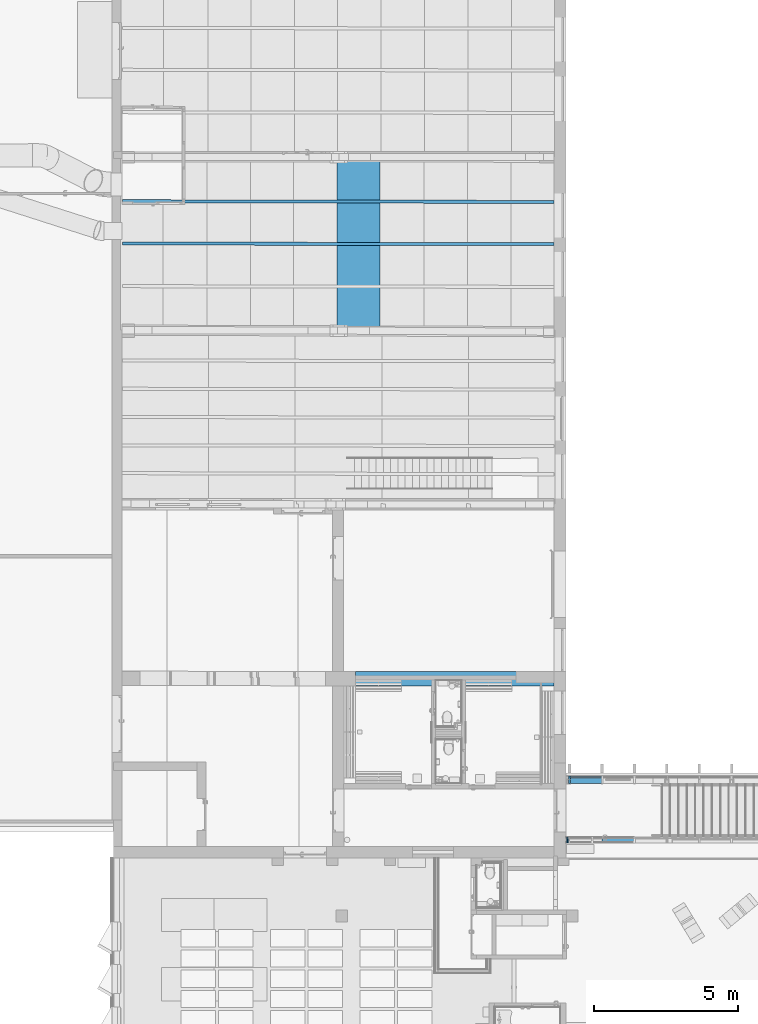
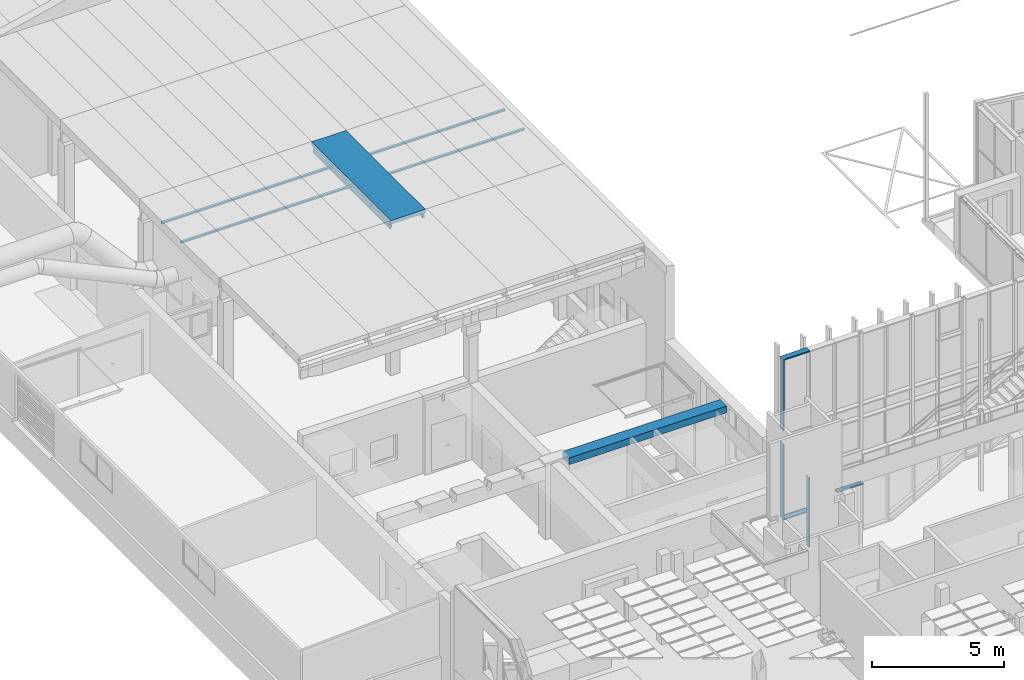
# One storey, part 34 of 301: 6 members, 4 beams, 2 elements without a shape of their own.
"""IFC2X3 building model written with IfcOpenShell, lengths in millimetres."""

from ifc_helpers import new_model, entity, si_unit, converted_unit, derived_unit, money_unit, direction, frame, origin_with_axes, place, context, subcontext, project, spatial, faceted_brep, material, type_object, element, aggregate, save


model = new_model("IFC2X3")

# Units and contexts
model_context = context("Model", 3, precision=0.01, world=origin_with_axes(), true_north=direction((0.0, 1.0)))
body_context = subcontext(model_context, "Body", "Model", "MODEL_VIEW")
ifc_project = project(units=[si_unit("LENGTHUNIT", "METRE", prefix="MILLI"), si_unit("AREAUNIT", "SQUARE_METRE"), si_unit("VOLUMEUNIT", "CUBIC_METRE"), converted_unit("PLANEANGLEUNIT", "DEGREE", entity("IfcPlaneAngleMeasure", 0.0174532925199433), si_unit("PLANEANGLEUNIT", "RADIAN"), dimensions=[0, 0, 0, 0, 0, 0, 0]), money_unit("EUR"), converted_unit("TIMEUNIT", "Year", entity("IfcTimeMeasure", 31557600.0), si_unit("TIMEUNIT", "SECOND"), dimensions=[0, 0, 1, 0, 0, 0, 0]), si_unit("MASSUNIT", "GRAM", prefix="KILO"), si_unit("THERMODYNAMICTEMPERATUREUNIT", "DEGREE_CELSIUS"), si_unit("LUMINOUSINTENSITYUNIT", "LUMEN"), si_unit("ENERGYUNIT", "JOULE", prefix="MEGA"), derived_unit("THERMALCONDUCTANCEUNIT", [(si_unit("POWERUNIT", "WATT"), 1), (si_unit("LENGTHUNIT", "METRE"), -1), (si_unit("THERMODYNAMICTEMPERATUREUNIT", "KELVIN"), -1)]), derived_unit("SPECIFICHEATCAPACITYUNIT", [(si_unit("ENERGYUNIT", "JOULE"), 1), (si_unit("MASSUNIT", "GRAM", prefix="KILO"), -1), (si_unit("THERMODYNAMICTEMPERATUREUNIT", "KELVIN"), -1)]), derived_unit("MASSDENSITYUNIT", [(si_unit("MASSUNIT", "GRAM", prefix="KILO"), 1), (si_unit("VOLUMEUNIT", "CUBIC_METRE"), -1)])], contexts=[model_context])

# Site, building, storey
site_placement = place(None, frame((0.0, 0.0, 8650.0), z_axis=(0.0, 0.0, 1.0), x_axis=(1.0, 0.0, 0.0)))
site = spatial("IfcSite", under=ifc_project, at=site_placement, Name="43301:001:0844", CompositionType="ELEMENT")
building_placement = place(site_placement, origin_with_axes())
building = spatial("IfcBuilding", under=site, at=building_placement, Name="Kuressaare Ametikooli tuulikute mehaanikute õppekorpus", CompositionType="ELEMENT")
storey_placement = place(building_placement, origin_with_axes())
storey = spatial("IfcBuildingStorey", under=building, at=storey_placement, Name="1.korrus", CompositionType="ELEMENT", Elevation=0.0)

# Curtain wall, members
curtain_wall_type = type_object("IfcCurtainWallType", Name="Curtain Wall Type", PredefinedType="NOTDEFINED")
curtain_wall_1_placement = place(storey_placement, frame((116704.6026822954, 28579.57374875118, 35.00000000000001), z_axis=(0.0, 0.0, 1.0), x_axis=(1.0, 0.0, 0.0)))
curtain_wall_1 = element("IfcCurtainWall", 1, at=curtain_wall_1_placement, inside=storey, type_object=curtain_wall_type, Name="KF-1.1")
ifc_material_1 = material(Name="Aluminium")
member_type_1 = type_object("IfcMemberType", Name="Boundary Frame 50 x 260", PredefinedType="NOTDEFINED")
member_1_placement = place(curtain_wall_1_placement, frame((-12937.5, 0.0, 0.0), z_axis=(1.0, 0.0, 0.0), x_axis=(0.0, 0.0, 1.0)))
member_1 = element("IfcMember", 2, at=member_1_placement, type_object=member_type_1, material=ifc_material_1, context=body_context, shape_type="Brep", body=[
    faceted_brep([(5.000000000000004, 19.99999999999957, 1125.0), (25.00000000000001, 19.99999999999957, 1125.0), (25.00000000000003, 219.9999999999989, 1125.0), (-24.99999999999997, 219.9999999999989, 1125.0), (-25.0, -39.99999999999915, 1125.0), (24.99999999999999, -39.99999999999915, 1125.0), (24.99999999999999, -19.99999999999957, 1125.0), (4.999999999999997, -19.99999999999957, 1125.0), (5.000000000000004, 19.99999999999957, 4.999999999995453), (25.00000000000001, 19.99999999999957, 25.00000000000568), (25.00000000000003, 219.9999999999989, 25.00000000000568), (-24.99999999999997, 219.9999999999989, -25.00000000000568), (-25.0, -39.99999999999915, -25.00000000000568), (24.99999999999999, -39.99999999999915, 25.00000000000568), (24.99999999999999, -19.99999999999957, 25.00000000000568), (4.999999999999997, -19.99999999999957, 4.999999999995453)], [[[0, 1, 2, 3, 4, 5, 6, 7]], [[0, 8, 9, 1]], [[9, 10, 2, 1]], [[2, 10, 11, 3]], [[3, 11, 12, 4]], [[4, 12, 13, 5]], [[6, 5, 13, 14]], [[14, 15, 7, 6]], [[7, 15, 8, 0]], [[8, 15, 14, 13, 12, 11, 10, 9]]]),
])
member_2_placement = place(curtain_wall_1_placement, frame((-12937.5, 0.0, 0.0), z_axis=(0.0, 0.0, 1.0), x_axis=(-1.0, 0.0, 0.0)))
member_2 = element("IfcMember", 3, at=member_2_placement, type_object=member_type_1, material=ifc_material_1, context=body_context, shape_type="Brep", body=[
    faceted_brep([(-4.999999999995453, 19.99999999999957, 3465.000008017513), (-4.999999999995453, -19.99999999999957, 3465.000008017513), (-25.00000000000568, -19.99999999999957, 3445.000008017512), (-25.00000000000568, -39.99999999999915, 3445.000008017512), (0.0, -39.99999999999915, 3470.000008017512), (0.0, 219.9999999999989, 3470.000008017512), (-25.00000000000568, 219.9999999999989, 3445.000008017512), (-25.00000000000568, 19.99999999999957, 3445.000008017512), (-4.999999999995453, 19.99999999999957, 4.999999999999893), (-4.999999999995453, -19.99999999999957, 4.999999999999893), (-25.00000000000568, -19.99999999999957, 25.00000000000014), (-25.00000000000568, -39.99999999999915, 25.00000000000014), (25.00000000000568, -39.99999999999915, -24.99999999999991), (25.00000000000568, -39.99999999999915, 3470.000008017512), (25.00000000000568, 219.9999999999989, 3470.000008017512), (25.00000000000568, 219.9999999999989, -24.99999999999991), (-25.00000000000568, 219.9999999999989, 25.00000000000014), (-25.00000000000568, 19.99999999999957, 25.00000000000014)], [[[0, 1, 2, 3, 4, 5, 6, 7]], [[1, 0, 8, 9]], [[10, 2, 1, 9]], [[2, 10, 11, 3]], [[11, 12, 13, 4, 3]], [[4, 13, 14, 5]], [[14, 15, 16, 6, 5]], [[17, 7, 6, 16]], [[0, 7, 17, 8]], [[8, 17, 16, 15, 12, 11, 10, 9]], [[14, 13, 12, 15]]]),
])
member_3_placement = place(curtain_wall_1_placement, frame((-12937.5, 0.0, 4090.0), z_axis=(0.0, 0.0, 1.0), x_axis=(-1.0, 0.0, 0.0)))
member_3 = element("IfcMember", 4, at=member_3_placement, type_object=member_type_1, material=ifc_material_1, context=body_context, shape_type="Brep", body=[
    faceted_brep([(-4.999999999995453, 19.99999999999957, 3264.99994565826), (-4.999999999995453, -19.99999999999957, 3264.99994565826), (-25.00000000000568, -19.99999999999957, 3244.999945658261), (-25.00000000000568, -39.99999999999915, 3244.999945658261), (25.00000000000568, -39.99999999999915, 3294.99994565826), (25.00000000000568, 219.9999999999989, 3294.99994565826), (-25.00000000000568, 219.9999999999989, 3244.999945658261), (-25.00000000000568, 19.99999999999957, 3244.999945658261), (-4.999999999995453, 19.99999999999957, 4.999999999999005), (-4.999999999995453, -19.99999999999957, 4.999999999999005), (-25.00000000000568, -19.99999999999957, 25.00000000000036), (-25.00000000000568, -39.99999999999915, 25.00000000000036), (25.00000000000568, -39.99999999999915, 0.0), (0.0, -39.99999999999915, 0.0), (25.00000000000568, 219.9999999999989, 0.0), (0.0, 219.9999999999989, 0.0), (-25.00000000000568, 219.9999999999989, 25.00000000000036), (-25.00000000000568, 19.99999999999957, 25.00000000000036)], [[[0, 1, 2, 3, 4, 5, 6, 7]], [[1, 0, 8, 9]], [[10, 2, 1, 9]], [[2, 10, 11, 3]], [[12, 4, 3, 11, 13]], [[5, 4, 12, 14]], [[6, 5, 14, 15, 16]], [[17, 7, 6, 16]], [[0, 7, 17, 8]], [[8, 17, 16, 15, 13, 11, 10, 9]], [[15, 14, 12, 13]]]),
])
member_4_placement = place(curtain_wall_1_placement, frame((-11812.5, 0.0, 7359.99994565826), z_axis=(-1.0, 0.0, 0.0), x_axis=(0.0, 0.0, -1.0)))
member_4 = element("IfcMember", 5, at=member_4_placement, type_object=member_type_1, material=ifc_material_1, context=body_context, shape_type="Brep", body=[
    faceted_brep([(4.999999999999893, 19.99999999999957, 1120.000000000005), (25.00000000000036, 19.99999999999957, 1099.999999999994), (25.00000000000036, 219.9999999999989, 1099.999999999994), (-25.00000000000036, 219.9999999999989, 1150.000000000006), (-25.00000000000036, -39.99999999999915, 1150.000000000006), (25.00000000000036, -39.99999999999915, 1099.999999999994), (25.00000000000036, -19.99999999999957, 1099.999999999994), (4.999999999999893, -19.99999999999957, 1120.000000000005), (4.999999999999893, 19.99999999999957, 0.0), (25.00000000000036, 19.99999999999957, 0.0), (25.00000000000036, 219.9999999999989, 0.0), (-25.00000000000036, 219.9999999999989, 0.0), (-25.00000000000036, -39.99999999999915, 0.0), (25.00000000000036, -39.99999999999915, 0.0), (25.00000000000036, -19.99999999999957, 0.0), (4.999999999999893, -19.99999999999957, 0.0)], [[[0, 1, 2, 3, 4, 5, 6, 7]], [[0, 8, 9, 1]], [[9, 10, 2, 1]], [[10, 11, 3, 2]], [[11, 12, 4, 3]], [[12, 13, 5, 4]], [[6, 5, 13, 14]], [[14, 15, 7, 6]], [[7, 15, 8, 0]], [[8, 15, 14, 13, 12, 11, 10, 9]]]),
])
aggregate(curtain_wall_1, [member_1, member_2, member_3, member_4])

curtain_wall_2_placement = place(storey_placement, frame((105155.4360221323, 26479.57374875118, 34.99996632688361), z_axis=(0.0, 0.0, 1.0), x_axis=(1.0, 0.0, 0.0)))
curtain_wall_2 = element("IfcCurtainWall", 6, at=curtain_wall_2_placement, inside=storey, type_object=curtain_wall_type, Name="SKF-1.1,EI60")
member_type_2 = type_object("IfcMemberType", Name="Boundary Frame 50 x 200", PredefinedType="NOTDEFINED")
member_5_placement = place(curtain_wall_2_placement, frame((-1463.333473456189, 0.0, 3209.99994650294), z_axis=(3.764702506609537e-08, 0.0, -0.9999999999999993), x_axis=(0.9999999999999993, 0.0, 3.764702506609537e-08)))
member_5 = element("IfcMember", 7, at=member_5_placement, type_object=member_type_2, material=ifc_material_1, context=body_context, shape_type="Brep", body=[
    faceted_brep([(4.999879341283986, 19.99999999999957, 3204.999946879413), (24.99988009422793, 19.99999999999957, 3184.999948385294), (24.99988009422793, 170.0000000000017, 3184.999948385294), (-25.00012178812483, 170.0000000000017, 3234.999944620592), (-25.00012178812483, -30.00000000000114, 3234.999944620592), (24.99988009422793, -30.00000000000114, 3184.999948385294), (24.99988009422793, -19.99999999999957, 3184.999948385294), (4.999879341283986, -19.99999999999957, 3204.999946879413), (4.999999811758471, 19.99999999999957, 5.00000037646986), (24.99999905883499, 19.99999999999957, 25.00000188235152), (24.99999905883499, 170.0000000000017, 25.00000188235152), (-24.99999905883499, 170.0000000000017, -25.00000188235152), (-24.99999905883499, -30.00000000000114, -25.00000188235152), (24.99999905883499, -30.00000000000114, 25.00000188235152), (24.99999905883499, -19.99999999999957, 25.00000188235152), (4.999999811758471, -19.99999999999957, 5.00000037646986)], [[[0, 1, 2, 3, 4, 5, 6, 7]], [[0, 8, 9, 1]], [[9, 10, 2, 1]], [[2, 10, 11, 3]], [[3, 11, 12, 4]], [[4, 12, 13, 5]], [[6, 5, 13, 14]], [[14, 15, 7, 6]], [[7, 15, 8, 0]], [[8, 15, 14, 13, 12, 11, 10, 9]]]),
])
member_6_placement = place(curtain_wall_2_placement, frame((-263.3333398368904, 0.0, 2100.379309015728), z_axis=(1.0, 0.0, 0.0), x_axis=(0.0, 0.0, 1.0)))
member_6 = element("IfcMember", 8, at=member_6_placement, type_object=member_type_2, material=ifc_material_1, context=body_context, shape_type="Brep", body=[
    faceted_brep([(-4.999999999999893, 19.99999999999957, 1150.000000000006), (-4.999999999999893, -19.99999999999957, 1150.000000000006), (-24.99999999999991, -19.99999999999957, 1150.000000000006), (-24.99999999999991, -30.00000000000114, 1150.000000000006), (24.99999999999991, -30.00000000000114, 1150.000000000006), (24.99999999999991, -19.99999999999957, 1150.000000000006), (4.999999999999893, -19.99999999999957, 1150.000000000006), (4.999999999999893, 19.99999999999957, 1150.000000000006), (24.99999999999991, 19.99999999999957, 1150.000000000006), (24.99999999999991, 170.0000000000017, 1150.000000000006), (-24.99999999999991, 170.0000000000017, 1150.000000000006), (-24.99999999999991, 19.99999999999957, 1150.000000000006), (-4.999999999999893, 19.99999999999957, 0.0), (-4.999999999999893, -19.99999999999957, 0.0), (-24.99999999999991, -19.99999999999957, 0.0), (-24.99999999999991, -30.00000000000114, 0.0), (24.99999999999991, -30.00000000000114, 0.0), (24.99999999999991, -19.99999999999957, 0.0), (4.999999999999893, -19.99999999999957, 0.0), (4.999999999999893, 19.99999999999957, 0.0), (24.99999999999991, 19.99999999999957, 0.0), (24.99999999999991, 170.0000000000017, 0.0), (-24.99999999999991, 170.0000000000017, 0.0), (-24.99999999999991, 19.99999999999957, 0.0)], [[[0, 1, 2, 3, 4, 5, 6, 7, 8, 9, 10, 11]], [[0, 12, 13, 1]], [[1, 13, 14, 2]], [[14, 15, 3, 2]], [[3, 15, 16, 4]], [[17, 5, 4, 16]], [[5, 17, 18, 6]], [[7, 6, 18, 19]], [[8, 7, 19, 20]], [[8, 20, 21, 9]], [[9, 21, 22, 10]], [[11, 10, 22, 23]], [[11, 23, 12, 0]], [[13, 12, 23, 22, 21, 20, 19, 18, 17, 16, 15, 14]]]),
])
aggregate(curtain_wall_2, [member_5, member_6])

# Beams
ifc_material_2 = material(Name="GENEERILINE - KONSTRUKTRIOON")
beam_type_1 = type_object("IfcBeamType", Name="GENEERILINE - KONSTRUKTRIOON 500 x 310", PredefinedType="NOTDEFINED")
beam_1_placement = place(storey_placement, frame((96346.58402471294, 32254.42678267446, 3100.0), z_axis=(0.0, 0.0, 1.0), x_axis=(-0.001050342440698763, -0.9999994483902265, 0.0)))
element("IfcBeam", 9, at=beam_1_placement, inside=storey, type_object=beam_type_1, material=ifc_material_2, context=body_context, shape_type="Brep", body=[
    faceted_brep([(0.0, 6880.931977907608, 0.0), (0.0, 0.0, 0.0), (0.0, 0.0, 309.9999999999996), (0.0, 6880.931977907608, 310.0000000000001), (499.5814427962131, 0.0, 0.0), (499.5808916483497, 0.5247313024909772, 0.0), (499.9999999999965, 6880.931977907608, 0.0), (499.9999999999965, 0.0, 0.0), (499.5808916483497, 0.5247313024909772, 309.9999999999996), (499.5814427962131, 0.0, 309.9999999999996), (499.9999999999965, 0.0, 310.0000000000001), (499.9999999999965, 6880.931977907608, 310.0000000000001)], [[[0, 1, 2, 3]], [[4, 5, 1, 0, 6, 7]], [[5, 8, 2, 1]], [[2, 8, 9, 10, 11, 3]], [[11, 6, 0, 3]], [[4, 9, 8, 5]], [[10, 7, 6, 11]], [[10, 9, 4, 7]]]),
])
beam_type_2 = type_object("IfcBeamType", Name="Precast Double Tee 2 1500 x 440", PredefinedType="NOTDEFINED")
beam_2_placement = place(storey_placement, frame((96455.87775377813, 50085.19774602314, 7100.0), z_axis=(0.0, 0.0, 1.0), x_axis=(-1.0, 0.0, 0.0)))
element("IfcBeam", 10, at=beam_2_placement, inside=storey, type_object=beam_type_2, material=ifc_material_2, context=body_context, shape_type="Brep", body=[
    faceted_brep([(750.0, 0.0, 0.0), (750.0, 6000.04546014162, 0.0), (-750.0, 6000.04546014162, 0.0), (-750.0, 0.0, 0.0), (750.0, 5846.273922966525, -168.9999999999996), (750.0, 6000.04546014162, -168.9999999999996), (750.0, 0.0, -169.8234995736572), (750.0, 175.561942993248, -169.8234995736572), (750.0, 164.5993947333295, -181.3563575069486), (750.0, 132.9269167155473, -222.3718083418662), (750.0, 107.3349260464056, -267.4324680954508), (750.0, 107.3344034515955, -440.0001340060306), (750.0, 5914.501854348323, -440.0001340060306), (750.0, 5914.501329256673, -266.6089685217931), (750.0, 5888.909192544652, -221.5483087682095), (750.0, 5857.236533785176, -180.5328579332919), (750.0, 1585.555563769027, -175.3978342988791), (750.0, 1580.980944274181, -184.1936973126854), (750.0, 1560.240958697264, -271.7709778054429), (750.0, 1520.24090499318, -271.7709778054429), (750.0, 1499.499957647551, -184.1935020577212), (750.0, 1494.925317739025, -175.3977593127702), (750.0, 1486.726526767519, -169.8234995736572), (750.0, 1593.754421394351, -169.8234995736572), (750.0, 3046.821644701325, -184.1936973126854), (750.0, 3026.081659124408, -271.7709778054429), (750.0, 2986.081605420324, -271.7709778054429), (750.0, 2965.340658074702, -184.1935020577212), (750.0, 2960.766018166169, -175.3977593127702), (750.0, 2952.567227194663, -169.8234995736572), (750.0, 3059.595121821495, -169.8234995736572), (750.0, 3051.396264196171, -175.3978342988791), (750.0, 4506.17395883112, -271.7709778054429), (750.0, 4466.173905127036, -271.7709778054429), (750.0, 4445.432957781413, -184.1935020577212), (750.0, 4440.85831787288, -175.3977593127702), (750.0, 4432.659526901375, -169.8234995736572), (750.0, 4539.687421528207, -169.8234995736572), (750.0, 4531.488563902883, -175.3978342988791), (750.0, 4526.913944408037, -184.1936973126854), (-750.0, 6000.04546014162, -168.9999999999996), (-750.0, 5851.358713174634, -168.9999999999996), (-750.0, 5862.321323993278, -180.5328579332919), (-750.0, 5893.993982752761, -221.5483087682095), (-750.0, 5919.586119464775, -266.6089685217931), (-750.0, 5919.586644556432, -440.0001340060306), (-750.0, 107.7531897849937, -440.0001340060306), (-750.0, 107.7537123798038, -267.4324680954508), (-750.0, 133.3457030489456, -222.3718083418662), (-750.0, 165.0181810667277, -181.3563575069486), (-750.0, 175.9807293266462, -169.8234995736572), (-750.0, 0.0, -169.8234995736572), (-750.0, 1501.957947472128, -184.1935020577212), (-750.0, 1522.698894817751, -271.7709778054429), (-750.0, 1562.698948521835, -271.7709778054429), (-750.0, 1583.438934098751, -184.1936973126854), (-750.0, 1588.013553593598, -175.3978342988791), (-750.0, 1596.212411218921, -169.8234995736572), (-750.0, 1489.18451659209, -169.8234995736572), (-750.0, 1497.383307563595, -175.3977593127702), (-750.0, 2988.539595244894, -271.7709778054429), (-750.0, 3028.539648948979, -271.7709778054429), (-750.0, 3049.279634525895, -184.1936973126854), (-750.0, 3053.854254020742, -175.3978342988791), (-750.0, 3062.053111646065, -169.8234995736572), (-750.0, 2955.025217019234, -169.8234995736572), (-750.0, 2963.224007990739, -175.3977593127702), (-750.0, 2967.798647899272, -184.1935020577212), (-750.0, 4508.631948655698, -271.7709778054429), (-750.0, 4529.371934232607, -184.1936973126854), (-750.0, 4533.946553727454, -175.3978342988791), (-750.0, 4542.145411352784, -169.8234995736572), (-750.0, 4435.117516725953, -169.8234995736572), (-750.0, 4443.316307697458, -175.3977593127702), (-750.0, 4447.890947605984, -184.1935020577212), (-750.0, 4468.631894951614, -271.7709778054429), (-584.2531439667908, 0.0, -169.8234995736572), (586.8200850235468, 0.0, -169.8234995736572), (586.8200850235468, 175.6075013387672, -169.8234995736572), (604.4404036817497, 173.5589308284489, -171.9734684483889), (620.1516209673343, 165.7013948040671, -180.2351660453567), (621.1429266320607, 164.6353704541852, -181.3563575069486), (631.9095256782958, 155.2289563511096, -193.5336498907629), (638.1842783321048, 142.404695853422, -210.1386333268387), (640.4097012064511, 132.9575133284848, -222.3718083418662), (648.6070026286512, 107.3632340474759, -267.4324680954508), (680.0000000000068, 107.3539468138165, -440.0001340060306), (680.0000000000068, 5914.739144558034, -440.0001340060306), (648.4571940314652, 5914.845545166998, -266.6089685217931), (640.2598926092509, 5889.281196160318, -221.5483087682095), (620.4148263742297, 5857.675809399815, -180.5328579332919), (638.1842783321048, 5880.477534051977, -210.1386333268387), (631.9095256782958, 5867.67622276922, -193.5336498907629), (604.4404036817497, 5849.593793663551, -171.9734684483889), (586.8200850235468, 5847.609861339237, -169.8234995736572), (-584.2531439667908, 5851.579635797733, -169.8234995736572), (-604.310838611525, 5855.147849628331, -173.5057932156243), (-615.9100461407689, 5861.866777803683, -180.5328579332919), (620.1516209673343, 5857.393729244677, -180.2351660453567), (620.1516209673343, 1583.252504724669, -180.2351660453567), (623.651571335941, 1581.187986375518, -184.1936973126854), (610.952498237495, 1585.783415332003, -175.3978342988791), (638.1842783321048, 1575.019912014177, -210.1386333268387), (649.3962514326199, 1560.405814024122, -271.7709778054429), (631.9095256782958, 1578.96257386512, -193.5336498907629), (649.3962514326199, 1520.405760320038, -271.7709778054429), (638.1842783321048, 1505.827763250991, -210.1386333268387), (631.9095256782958, 1501.905492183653, -193.5336498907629), (623.651398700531, 1499.707000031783, -184.1935020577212), (610.9523556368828, 1495.153169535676, -175.3977593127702), (620.1516209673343, 1497.654016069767, -180.2351660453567), (586.8200850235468, 1486.993923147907, -169.8234995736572), (604.4404036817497, 1490.127289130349, -171.9734684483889), (586.8200850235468, 1594.021817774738, -169.8234995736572), (604.4404036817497, 1590.830721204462, -171.9734684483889), (649.3962514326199, 3026.246514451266, -271.7709778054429), (623.651571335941, 3047.028686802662, -184.1936973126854), (631.9095256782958, 3044.803274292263, -193.5336498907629), (638.1842783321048, 3040.860612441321, -210.1386333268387), (649.3962514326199, 2986.246460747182, -271.7709778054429), (638.1842783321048, 2971.668463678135, -210.1386333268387), (631.9095256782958, 2967.746192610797, -193.5336498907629), (623.651398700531, 2965.547700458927, -184.1935020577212), (620.1516209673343, 2963.494716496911, -180.2351660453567), (610.952355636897, 2960.99386996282, -175.3977593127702), (604.4404036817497, 2955.967989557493, -171.9734684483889), (586.8200850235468, 2952.834623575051, -169.8234995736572), (586.8200850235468, 3059.862518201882, -169.8234995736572), (610.952498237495, 3051.624115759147, -175.3978342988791), (604.4404036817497, 3056.671421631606, -171.9734684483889), (620.1516209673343, 3049.093205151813, -180.2351660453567), (649.3962514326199, 4506.338814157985, -271.7709778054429), (649.3962514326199, 4466.338760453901, -271.7709778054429), (638.1842783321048, 4451.760763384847, -210.1386333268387), (631.9095256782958, 4447.838492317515, -193.5336498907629), (623.651398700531, 4445.640000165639, -184.1935020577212), (620.1516209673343, 4443.587016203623, -180.2351660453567), (610.952355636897, 4441.086169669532, -175.3977593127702), (604.4404036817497, 4436.060289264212, -171.9734684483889), (586.8200850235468, 4432.92692328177, -169.8234995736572), (586.8200850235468, 4539.954817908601, -169.8234995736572), (604.4404036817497, 4536.763721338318, -171.9734684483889), (610.952498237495, 4531.716415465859, -175.3978342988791), (620.1516209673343, 4529.185504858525, -180.2351660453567), (623.651571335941, 4527.120986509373, -184.1936973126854), (631.9095256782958, 4524.895573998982, -193.5336498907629), (638.1842783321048, 4520.952912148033, -210.1386333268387), (-621.7526411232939, 5864.619890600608, -184.072435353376), (-634.3038197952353, 5877.074142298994, -200.1453415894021), (-640.3274701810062, 5892.139560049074, -219.6283094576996), (-640.6295561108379, 5893.623232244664, -221.5483087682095), (-647.7192416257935, 5919.239401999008, -266.6089685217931), (-674.9999969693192, 5919.332405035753, -440.0001340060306), (-674.9999969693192, 107.7322504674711, -440.0001340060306), (-647.8488081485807, 107.7251926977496, -267.4324680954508), (-640.7591226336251, 133.3152039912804, -222.3718083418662), (-640.3274701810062, 135.4336365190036, -219.6283094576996), (-634.3038197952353, 150.4768673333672, -200.1453415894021), (-621.7526411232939, 162.8849972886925, -184.072435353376), (-617.2693537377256, 164.9811238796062, -181.3563575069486), (-584.2531439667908, 175.9344543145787, -169.8234995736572), (-604.310838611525, 172.4398531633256, -173.5057932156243), (-621.847180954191, 1501.747948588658, -184.1935020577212), (-634.3038197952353, 1505.546230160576, -200.1453415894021), (-640.3274701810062, 1510.170246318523, -219.6283094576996), (-648.5314139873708, 1522.532622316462, -271.7709778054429), (-648.5314139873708, 1562.532676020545, -271.7709778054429), (-640.3274701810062, 1574.867619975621, -219.6283094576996), (-634.3038197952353, 1579.471691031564, -200.1453415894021), (-621.8473334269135, 1583.228935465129, -184.1936973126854), (-621.7526411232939, 1583.291847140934, -184.072435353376), (-607.4339316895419, 1587.779936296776, -175.3978342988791), (-604.310838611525, 1590.557675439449, -173.5057932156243), (-584.2531439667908, 1595.9408084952, -169.8234995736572), (-584.2531439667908, 1488.912913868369, -169.8234995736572), (-604.310838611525, 1494.361811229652, -173.5057932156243), (-607.4338079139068, 1497.149690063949, -175.3977593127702), (-621.7526411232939, 1501.684827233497, -184.072435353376), (-648.5314139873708, 2988.373322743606, -271.7709778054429), (-648.5314139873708, 3028.373376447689, -271.7709778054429), (-640.3274701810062, 3040.708320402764, -219.6283094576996), (-634.3038197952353, 3045.312391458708, -200.1453415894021), (-621.8473334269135, 3049.069635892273, -184.1936973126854), (-621.7526411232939, 3049.132547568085, -184.072435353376), (-607.4339316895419, 3053.62063672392, -175.3978342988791), (-604.310838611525, 3056.398375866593, -173.5057932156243), (-584.2531439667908, 3061.781508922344, -169.8234995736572), (-584.2531439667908, 2954.753614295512, -169.8234995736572), (-604.310838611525, 2960.202511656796, -173.5057932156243), (-607.4338079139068, 2962.990390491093, -175.3977593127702), (-621.7526411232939, 2967.525527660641, -184.072435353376), (-621.8471809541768, 2967.588649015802, -184.1935020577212), (-634.3038197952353, 2971.38693058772, -200.1453415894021), (-640.3274701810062, 2976.010946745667, -219.6283094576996), (-634.3038197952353, 4525.40469116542, -200.1453415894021), (-621.8473334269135, 4529.161935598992, -184.1936973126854), (-648.5314139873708, 4508.465676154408, -271.7709778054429), (-640.3274701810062, 4520.800620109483, -219.6283094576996), (-621.7526411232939, 4529.224847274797, -184.072435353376), (-607.4339316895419, 4533.712936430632, -175.3978342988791), (-604.310838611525, 4536.490675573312, -173.5057932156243), (-584.2531439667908, 4541.873808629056, -169.8234995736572), (-584.2531439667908, 4434.845914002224, -169.8234995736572), (-604.310838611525, 4440.294811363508, -173.5057932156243), (-607.4338079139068, 4443.082690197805, -175.3977593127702), (-621.7526411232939, 4447.617827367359, -184.072435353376), (-621.8471809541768, 4447.680948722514, -184.1935020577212), (-640.3274701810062, 4456.103246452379, -219.6283094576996), (-648.5314139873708, 4468.465622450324, -271.7709778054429), (-634.3038197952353, 4451.479230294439, -200.1453415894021)], [[[0, 1, 2, 3]], [[4, 5, 1, 0, 6, 7, 8, 9, 10, 11, 12, 13, 14, 15], [16, 17, 18, 19, 20, 21, 22, 23], [24, 25, 26, 27, 28, 29, 30, 31], [32, 33, 34, 35, 36, 37, 38, 39]], [[5, 40, 2, 1]], [[3, 2, 40, 41, 42, 43, 44, 45, 46, 47, 48, 49, 50, 51], [52, 53, 54, 55, 56, 57, 58, 59], [60, 61, 62, 63, 64, 65, 66, 67], [68, 69, 70, 71, 72, 73, 74, 75]], [[51, 76, 77, 6, 0, 3]], [[41, 40, 5, 4]], [[78, 7, 6, 77]], [[78, 79, 80, 81, 8, 7]], [[81, 82, 83, 84, 9, 8]], [[10, 9, 84, 85]], [[11, 10, 85, 86]], [[86, 87, 12, 11]], [[12, 87, 88, 13]], [[13, 88, 89, 14]], [[90, 15, 14, 89, 91, 92]], [[93, 94, 95, 96, 97, 42, 41, 4, 15, 90, 98]], [[99, 100, 17, 16, 101]], [[102, 103, 18, 17, 100, 104]], [[103, 105, 19, 18]], [[20, 19, 105, 106, 107, 108]], [[109, 21, 20, 108, 110]], [[111, 22, 21, 109, 112]], [[111, 113, 23, 22]], [[114, 101, 16, 23, 113]], [[115, 25, 24, 116, 117, 118]], [[119, 26, 25, 115]], [[26, 119, 120, 121, 122, 27]], [[28, 27, 122, 123, 124]], [[29, 28, 124, 125, 126]], [[127, 30, 29, 126]], [[128, 31, 30, 127, 129]], [[116, 24, 31, 128, 130]], [[33, 32, 131, 132]], [[132, 133, 134, 135, 34, 33]], [[34, 135, 136, 137, 35]], [[35, 137, 138, 139, 36]], [[37, 36, 139, 140]], [[38, 37, 140, 141, 142]], [[39, 38, 142, 143, 144]], [[32, 39, 144, 145, 146, 131]], [[97, 147, 148, 149, 150, 43, 42]], [[151, 44, 43, 150]], [[152, 45, 44, 151]], [[46, 45, 152, 153]], [[153, 154, 47, 46]], [[154, 155, 48, 47]], [[48, 155, 156, 157, 158, 159, 49]], [[160, 50, 49, 159, 161]], [[50, 160, 76, 51]], [[162, 163, 164, 165, 53, 52]], [[54, 53, 165, 166]], [[166, 167, 168, 169, 55, 54]], [[55, 169, 170, 171, 56]], [[56, 171, 172, 173, 57]], [[58, 57, 173, 174]], [[58, 174, 175, 176, 59]], [[59, 176, 177, 162, 52]], [[60, 178, 179, 61]], [[180, 181, 182, 62, 61, 179]], [[182, 183, 184, 63, 62]], [[184, 185, 186, 64, 63]], [[64, 186, 187, 65]], [[187, 188, 189, 66, 65]], [[189, 190, 191, 67, 66]], [[192, 193, 178, 60, 67, 191]], [[194, 195, 69, 68, 196, 197]], [[198, 199, 70, 69, 195]], [[200, 201, 71, 70, 199]], [[201, 202, 72, 71]], [[203, 204, 73, 72, 202]], [[205, 206, 74, 73, 204]], [[207, 208, 75, 74, 206, 209]], [[208, 196, 68, 75]], [[187, 186, 202, 201, 95, 94, 140, 139, 127, 126, 113, 111, 78, 77, 76, 160, 174, 173]], [[111, 112, 79, 78]], [[110, 80, 79, 112, 109]], [[82, 81, 80, 110, 108, 107]], [[107, 106, 83, 82]], [[133, 132, 131, 146, 91, 89, 88, 87, 86, 85, 84, 83, 106, 105, 103, 102, 120, 119, 115, 118]], [[92, 91, 146, 145]], [[92, 145, 144, 143, 98, 90]], [[94, 93, 141, 140]], [[96, 95, 201, 200]], [[96, 200, 199, 198, 147, 97]], [[98, 143, 142, 141, 93]], [[100, 99, 123, 122, 121, 104]], [[101, 114, 125, 124, 123, 99]], [[120, 102, 104, 121]], [[125, 114, 113, 126]], [[130, 136, 135, 134, 117, 116]], [[118, 117, 134, 133]], [[129, 127, 139, 138]], [[129, 138, 137, 136, 130, 128]], [[147, 198, 195, 194, 148]], [[149, 148, 194, 197]], [[150, 149, 197, 196, 208, 207, 180, 179, 178, 193, 167, 166, 165, 164, 156, 155, 154, 153, 152, 151]], [[164, 163, 157, 156]], [[177, 158, 157, 163, 162]], [[161, 159, 158, 177, 176, 175]], [[175, 174, 160, 161]], [[192, 168, 167, 193]], [[169, 168, 192, 191, 190, 170]], [[171, 170, 190, 189, 188, 172]], [[187, 173, 172, 188]], [[181, 180, 207, 209]], [[181, 209, 206, 205, 183, 182]], [[183, 205, 204, 203, 185, 184]], [[186, 185, 203, 202]]]),
])
beam_type_3 = type_object("IfcBeamType", Name="Precast Single Tee 2 107 x 102", PredefinedType="NOTDEFINED")
beam_3_placement = place(storey_placement, frame((88270.22240509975, 47091.30108163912, 6930.176500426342), z_axis=(0.0, 0.0, 1.0), x_axis=(-0.001638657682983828, -0.9999986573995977, 0.0)))
element("IfcBeam", 11, at=beam_3_placement, inside=storey, type_object=beam_type_3, material=ifc_material_2, context=body_context, shape_type="Brep", body=[
    faceted_brep([(45.31502884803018, 0.0, -5.574334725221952), (45.31502884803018, 14968.77585727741, -5.574334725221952), (53.51387546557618, 14968.77585727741, 0.0), (53.51387546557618, 0.0, 0.0), (40.74041549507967, 0.0, -14.37019773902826), (40.74041549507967, 14968.77585727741, -14.37019773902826), (20.00045776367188, 14968.77585727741, -101.9474782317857), (-19.99954223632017, 14968.77585727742, -101.9474782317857), (-40.74046173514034, 14968.77585727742, -14.37000248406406), (-45.31509550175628, 14968.77585727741, -5.574259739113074), (-53.51387546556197, 14968.77585727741, 0.0), (-53.51387546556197, 0.0, 0.0), (-45.31509550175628, 0.0, -5.574259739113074), (-40.74046173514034, 0.0, -14.37000248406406), (-19.99954223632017, 0.0, -101.9474782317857), (20.00045776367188, 0.0, -101.9474782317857)], [[[0, 1, 2, 3]], [[4, 5, 1, 0]], [[2, 1, 5, 6, 7, 8, 9, 10]], [[3, 2, 10, 11]], [[4, 0, 3, 11, 12, 13, 14, 15]], [[15, 6, 5, 4]], [[14, 7, 6, 15]], [[13, 8, 7, 14]], [[12, 9, 8, 13]], [[11, 10, 9, 12]]]),
])
beam_4_placement = place(storey_placement, frame((88270.22240509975, 48557.14178206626, 6930.176500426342), z_axis=(0.0, 0.0, 1.0), x_axis=(-0.001638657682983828, -0.9999986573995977, 0.0)))
element("IfcBeam", 12, at=beam_4_placement, inside=storey, type_object=beam_type_3, material=ifc_material_2, context=body_context, shape_type="Brep", body=[
    faceted_brep([(45.31502884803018, 0.0, -5.574334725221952), (45.31502884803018, 14968.77585727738, -5.574334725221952), (53.51387546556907, 14968.77585727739, 0.0), (53.51387546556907, 0.0, 0.0), (40.74041549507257, 0.0, -14.37019773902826), (40.74041549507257, 14968.77585727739, -14.37019773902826), (20.00045776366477, 14968.77585727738, -101.9474782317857), (-19.99954223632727, 14968.77585727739, -101.9474782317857), (-40.74046173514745, 14968.77585727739, -14.37000248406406), (-45.31509550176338, 14968.77585727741, -5.574259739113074), (-53.51387546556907, 14968.77585727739, 0.0), (-53.51387546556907, 0.0, 0.0), (-45.31509550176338, 0.0, -5.574259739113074), (-40.74046173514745, 0.0, -14.37000248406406), (-19.99954223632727, 0.0, -101.9474782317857), (20.00045776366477, 0.0, -101.9474782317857)], [[[0, 1, 2, 3]], [[4, 5, 1, 0]], [[2, 1, 5, 6, 7, 8, 9, 10]], [[3, 2, 10, 11]], [[4, 0, 3, 11, 12, 13, 14, 15]], [[15, 6, 5, 4]], [[14, 7, 6, 15]], [[13, 8, 7, 14]], [[12, 9, 8, 13]], [[11, 10, 9, 12]]]),
])

save(model, "model.ifc")
